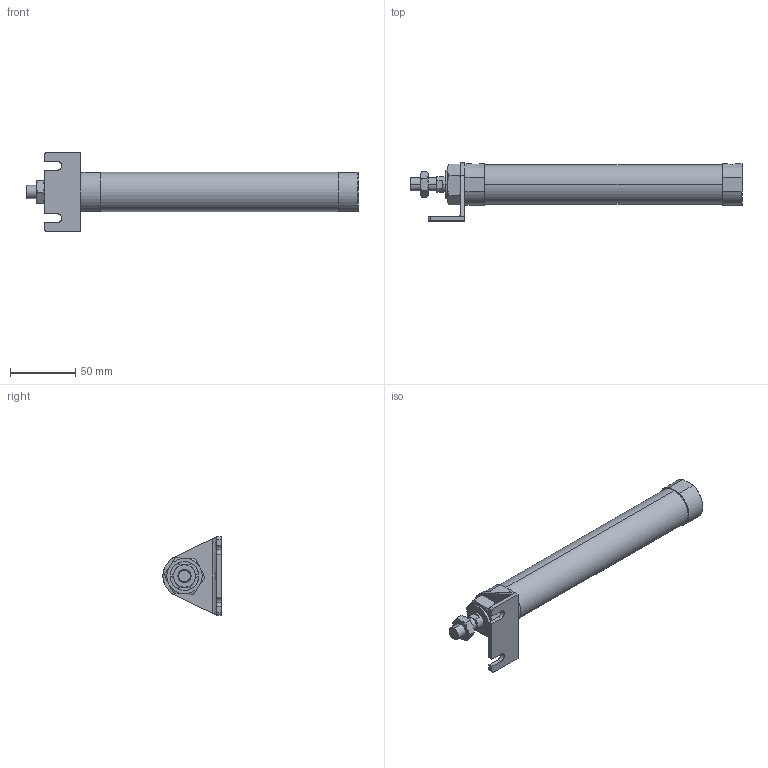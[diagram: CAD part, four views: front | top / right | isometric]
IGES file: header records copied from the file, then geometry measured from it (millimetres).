
Start section: SolidWorks IGES file using analytic representation for surfaces
Global section: file name: C:\Users\Toshiba\Desktop\JGND2-25-150-L.IGS; native system: SolidWorks 2014; preprocessor: SolidWorks 2014; author: Toshiba; date: 160804.104224; units: millimetre
Bounding box: 254 x 44.5 x 60 mm (x, y, z)
Surface area: 34551.7 mm2 (no closed solid volume)
Topology: 0 solids, 0 shells, 115 faces, 1928 edges, 1924 vertices
Faces by surface type: bspline 74, revolution 41
